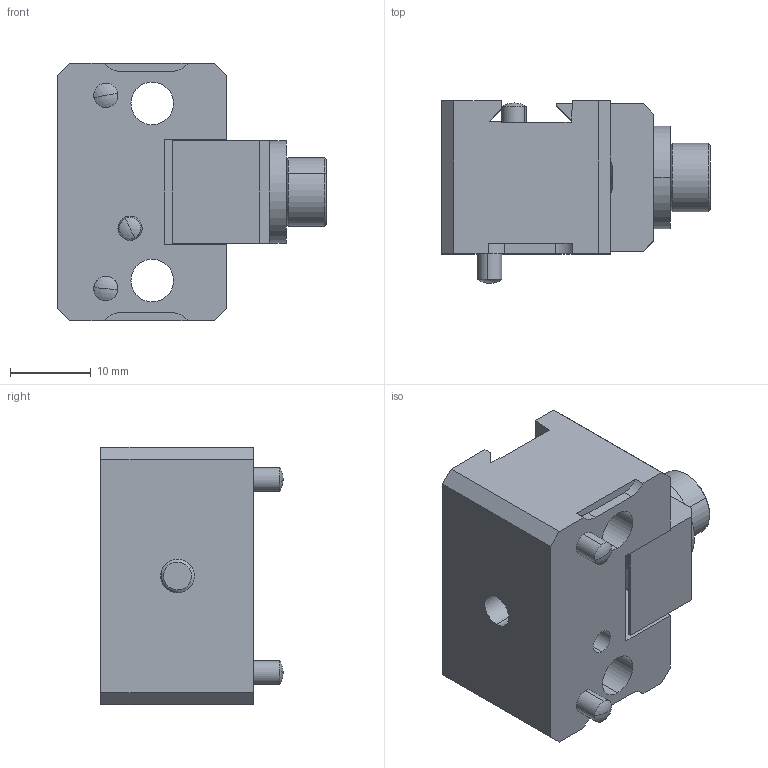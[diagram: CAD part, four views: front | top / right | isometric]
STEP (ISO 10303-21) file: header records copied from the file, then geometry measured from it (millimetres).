
FILE_DESCRIPTION (( 'STEP AP214' ), '1' );
FILE_NAME ('DM12.STEP', '2019-05-07T16:58:32', ( '' ), ( '' ), 'SwSTEP 2.0', 'SolidWorks 2018', '' );
FILE_SCHEMA (( 'AUTOMOTIVE_DESIGN' ));
Length unit declared in the file: millimetre
Products named in the file (7): 76124_91290A242; 91595A108_METRIC ALLOY STEEL DOWEL PIN_91595A108; 91595A100_METRIC ALLOY STEEL DOWEL PIN_91595A100; HW.0203X0500.FW_DEFAULT; CLW10M_CLW10; DM12-1_D051251WM; DM12
Assembly tree (7 placements, depth 2):
  DM12
    DM12-1_D051251WM
    CLW10M_CLW10
    HW.0203X0500.FW_DEFAULT
    91595A100_METRIC ALLOY STEEL DOWEL PIN_91595A100
    91595A108_METRIC ALLOY STEEL DOWEL PIN_91595A108  x2
    76124_91290A242
Bounding box: 33.39 x 22.65 x 32 mm (x, y, z)
Volume: 12094.3 mm3; surface area: 6995.7 mm2
Topology: 7 solids, 7 shells, 464 faces, 1234 edges, 817 vertices
Faces by surface type: plane 215, cylinder 151, bspline 64, cone 22, sphere 12
Entity records: 19991 total; most frequent: CARTESIAN_POINT 6958, ORIENTED_EDGE 2432, DIRECTION 1811, EDGE_CURVE 1216, VERTEX_POINT 805, VECTOR 735, LINE 735, AXIS2_PLACEMENT_3D 538
